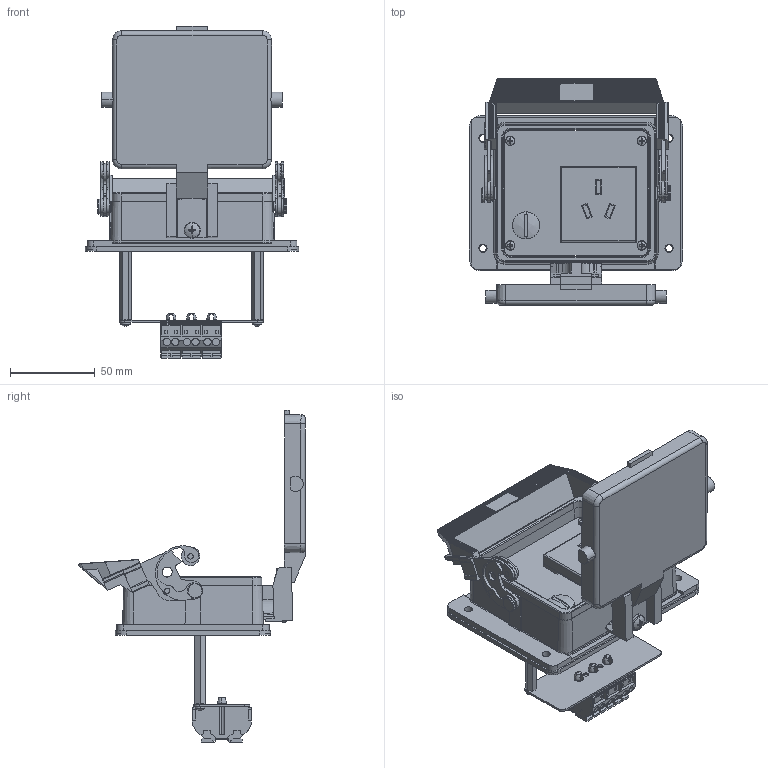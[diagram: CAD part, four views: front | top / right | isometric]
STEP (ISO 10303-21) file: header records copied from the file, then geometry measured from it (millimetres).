
FILE_DESCRIPTION (( 'STEP AP214' ), '1' );
FILE_NAME ('DCH1-NR-32.STEP', '2012-08-08T19:23:33', ( 'Mencom User' ), ( 'Hewlett-Packard Company' ), 'SwSTEP 2.0', 'SolidWorks 2012', '' );
FILE_SCHEMA (( 'AUTOMOTIVE_DESIGN' ));
Length unit declared in the file: inch
Products named in the file (1): DCH1-NR-32
Bounding box: 125.98 x 134 x 196.21 mm (x, y, z)
Volume: 208943.3 mm3; surface area: 137281.2 mm2
Topology: 37 solids, 38 shells, 2159 faces, 5700 edges, 3711 vertices
Faces by surface type: plane 1376, cylinder 631, torus 48, bspline 41, cone 36, sphere 27
Entity records: 98237 total; most frequent: CARTESIAN_POINT 15659, ORIENTED_EDGE 11382, DIRECTION 11022, EDGE_CURVE 5691, LINE 3974, VECTOR 3974, VERTEX_POINT 3711, AXIS2_PLACEMENT_3D 3524
